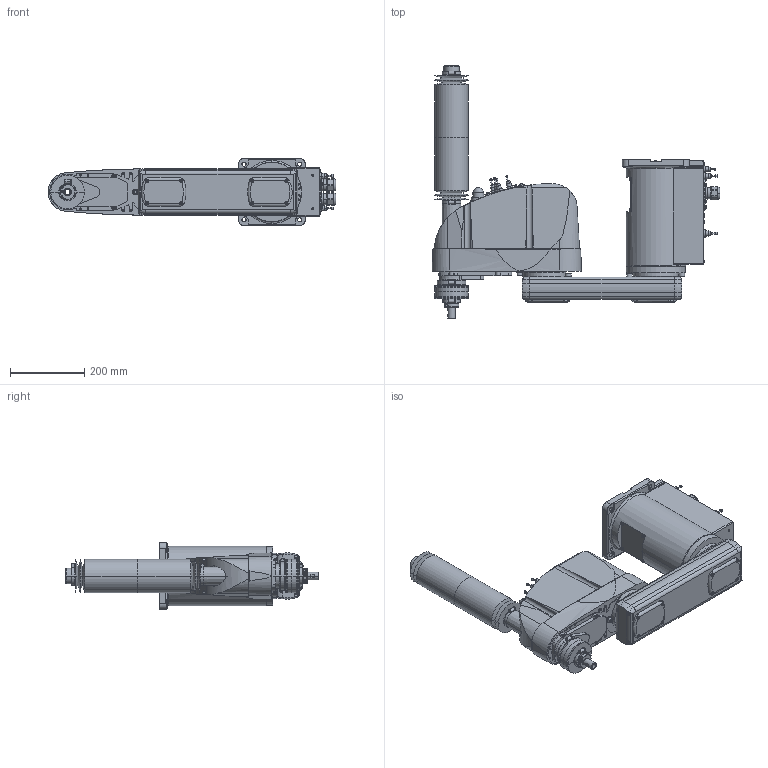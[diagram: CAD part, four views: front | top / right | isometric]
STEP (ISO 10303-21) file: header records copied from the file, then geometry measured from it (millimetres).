
FILE_DESCRIPTION( ( '' ), '1' );
FILE_NAME( '//expscmdclustefs.cadenas.external/client_exchange/iodir/jobs/output/wkb51536018_no0/STEP/G6_553DR_2_03.stp', '2012-11-23T09:29:40', ( '' ), ( '' ), ' ', ' ', ' ' );
FILE_SCHEMA( ( 'CONFIG_CONTROL_DESIGN' ) );
Length unit declared in the file: millimetre
Products named in the file (8): 1; 2; 3; 4; 5; 6; 7; 8
Bounding box: 774 x 679.5 x 180 mm (x, y, z)
Volume: 22499218.4 mm3; surface area: 1153933.1 mm2
Topology: 8 solids, 8 shells, 1818 faces, 4381 edges, 2787 vertices
Faces by surface type: plane 867, cylinder 628, cone 282, torus 40, sphere 1
Entity records: 56656 total; most frequent: CARTESIAN_POINT 12979, DIRECTION 9372, ORIENTED_EDGE 8702, EDGE_CURVE 4351, AXIS2_PLACEMENT_3D 3414, VERTEX_POINT 2787, LINE 2544, VECTOR 2544
